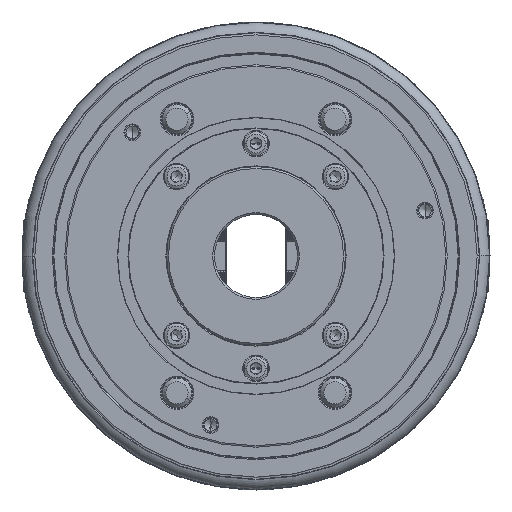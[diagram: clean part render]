
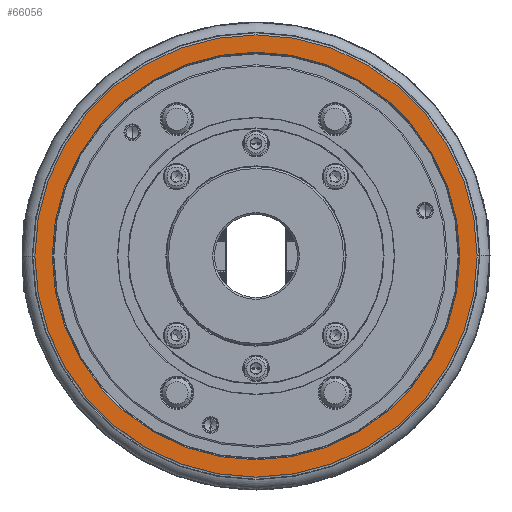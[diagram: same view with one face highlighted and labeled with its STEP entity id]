
A CAD part, left-side view. The second image highlights one B-rep face of the part: STEP entity #66056.
In plain terms, the highlighted planar face has unit normal (-1, 0, 0).
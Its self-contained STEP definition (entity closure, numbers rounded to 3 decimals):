
#511 = DIRECTION ( 'NONE',  ( 0., 1., 0. ) ) ;
#2173 = EDGE_LOOP ( 'NONE', ( #23194, #3522 ) ) ;
#3522 = ORIENTED_EDGE ( 'NONE', *, *, #9625, .F. ) ;
#3649 = VERTEX_POINT ( 'NONE', #27784 ) ;
#6021 = DIRECTION ( 'NONE',  ( 0., 1., 0. ) ) ;
#8421 = EDGE_CURVE ( 'NONE', #76604, #3649, #63099, .T. ) ;
#8740 = CIRCLE ( 'NONE', #75672, 120. ) ;
#8824 = PLANE ( 'NONE',  #58865 ) ;
#9625 = EDGE_CURVE ( 'NONE', #31155, #77440, #35278, .T. ) ;
#9745 = DIRECTION ( 'NONE',  ( 1., 0., 0. ) ) ;
#11173 = EDGE_CURVE ( 'NONE', #77440, #31155, #8740, .T. ) ;
#19595 = CIRCLE ( 'NONE', #67688, 110.6 ) ;
#22979 = AXIS2_PLACEMENT_3D ( 'NONE', #49517, #9745, #49104 ) ;
#23194 = ORIENTED_EDGE ( 'NONE', *, *, #11173, .F. ) ;
#26019 = DIRECTION ( 'NONE',  ( 0., 0., 1. ) ) ;
#27784 = CARTESIAN_POINT ( 'NONE',  ( -100., 0., 110.6 ) ) ;
#29924 = CARTESIAN_POINT ( 'NONE',  ( -100., 120., 0. ) ) ;
#31155 = VERTEX_POINT ( 'NONE', #70252 ) ;
#33156 = FACE_BOUND ( 'NONE', #42706, .T. ) ;
#34372 = CARTESIAN_POINT ( 'NONE',  ( -100., 0., -110.6 ) ) ;
#35278 = CIRCLE ( 'NONE', #82096, 120. ) ;
#39049 = CARTESIAN_POINT ( 'NONE',  ( -100., 0., 0. ) ) ;
#42706 = EDGE_LOOP ( 'NONE', ( #68521, #64433 ) ) ;
#47323 = CARTESIAN_POINT ( 'NONE',  ( -100., 0., -110.6 ) ) ;
#49104 = DIRECTION ( 'NONE',  ( 0., 0., -1. ) ) ;
#49184 = CARTESIAN_POINT ( 'NONE',  ( -100., 0., 0. ) ) ;
#49517 = CARTESIAN_POINT ( 'NONE',  ( -100., 0., 0. ) ) ;
#50437 = DIRECTION ( 'NONE',  ( 1., 0., 0. ) ) ;
#53505 = CARTESIAN_POINT ( 'NONE',  ( -100., 0., 0. ) ) ;
#54310 = DIRECTION ( 'NONE',  ( 1., 0., 0. ) ) ;
#58865 = AXIS2_PLACEMENT_3D ( 'NONE', #34372, #59908, #26019 ) ;
#59908 = DIRECTION ( 'NONE',  ( -1., 0., 0. ) ) ;
#63099 = CIRCLE ( 'NONE', #22979, 110.6 ) ;
#64433 = ORIENTED_EDGE ( 'NONE', *, *, #8421, .T. ) ;
#66056 = ADVANCED_FACE ( 'NONE', ( #72457, #33156 ), #8824, .T. ) ;
#67688 = AXIS2_PLACEMENT_3D ( 'NONE', #53505, #54310, #72737 ) ;
#68521 = ORIENTED_EDGE ( 'NONE', *, *, #81675, .T. ) ;
#70252 = CARTESIAN_POINT ( 'NONE',  ( -100., -120., 0. ) ) ;
#72457 = FACE_OUTER_BOUND ( 'NONE', #2173, .T. ) ;
#72737 = DIRECTION ( 'NONE',  ( 0., 0., -1. ) ) ;
#75672 = AXIS2_PLACEMENT_3D ( 'NONE', #49184, #50437, #6021 ) ;
#76604 = VERTEX_POINT ( 'NONE', #47323 ) ;
#77440 = VERTEX_POINT ( 'NONE', #29924 ) ;
#81675 = EDGE_CURVE ( 'NONE', #3649, #76604, #19595, .T. ) ;
#82096 = AXIS2_PLACEMENT_3D ( 'NONE', #39049, #82175, #511 ) ;
#82175 = DIRECTION ( 'NONE',  ( 1., 0., 0. ) ) ;
